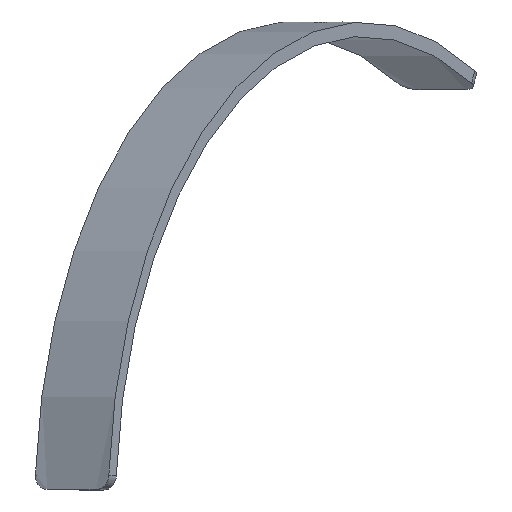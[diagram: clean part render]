
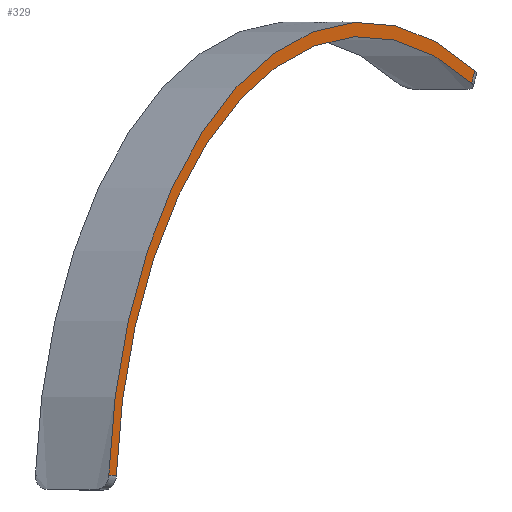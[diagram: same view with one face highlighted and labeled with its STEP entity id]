
A CAD part, left-side view. The second image highlights one B-rep face of the part: STEP entity #329.
In plain terms, the highlighted planar face has unit normal (-0.522, -0.853, 0).
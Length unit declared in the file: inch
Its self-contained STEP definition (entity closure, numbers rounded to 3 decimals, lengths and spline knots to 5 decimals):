
#24 = DIRECTION ( 'NONE',  ( -0.522, -0.853, 0. ) ) ;
#38 = CARTESIAN_POINT ( 'NONE',  ( 100.43392, -65.06447, 0. ) ) ;
#50 = CARTESIAN_POINT ( 'NONE',  ( 113.05484, -72.79858, 30.72535 ) ) ;
#57 = ORIENTED_EDGE ( 'NONE', *, *, #557, .T. ) ;
#110 = EDGE_CURVE ( 'NONE', #579, #815, #810, .T. ) ;
#122 = ORIENTED_EDGE ( 'NONE', *, *, #643, .T. ) ;
#128 = VERTEX_POINT ( 'NONE', #536 ) ;
#148 = FACE_OUTER_BOUND ( 'NONE', #257, .T. ) ;
#207 = AXIS2_PLACEMENT_3D ( 'NONE', #483, #433, #544 ) ;
#257 = EDGE_LOOP ( 'NONE', ( #122, #57, #440, #765 ) ) ;
#259 = CARTESIAN_POINT ( 'NONE',  ( 100.47255, -65.08814, 0.99897 ) ) ;
#286 = VECTOR ( 'NONE', #427, 39.37008 ) ;
#294 = DIRECTION ( 'NONE',  ( 0.853, -0.522, 0. ) ) ;
#329 = ADVANCED_FACE ( 'NONE', ( #148 ), #789, .F. ) ;
#343 = CARTESIAN_POINT ( 'NONE',  ( 72.28775, -47.81648, 2.49829 ) ) ;
#365 = CIRCLE ( 'NONE', #540, 34.105 ) ;
#406 = EDGE_CURVE ( 'NONE', #579, #452, #759, .T. ) ;
#427 = DIRECTION ( 'NONE',  ( 0.392, -0.24, 0.888 ) ) ;
#433 = DIRECTION ( 'NONE',  ( -0.522, -0.853, 0. ) ) ;
#440 = ORIENTED_EDGE ( 'NONE', *, *, #406, .F. ) ;
#452 = VERTEX_POINT ( 'NONE', #343 ) ;
#458 = DIRECTION ( 'NONE',  ( 0.852, -0.522, -0.045 ) ) ;
#462 = DIRECTION ( 'NONE',  ( 0.522, 0.853, 0. ) ) ;
#469 = CARTESIAN_POINT ( 'NONE',  ( 100.43392, -65.06447, 0. ) ) ;
#483 = CARTESIAN_POINT ( 'NONE',  ( 100.43392, -65.06447, 0. ) ) ;
#498 = LINE ( 'NONE', #259, #745 ) ;
#536 = CARTESIAN_POINT ( 'NONE',  ( 71.43561, -47.29428, 2.54362 ) ) ;
#540 = AXIS2_PLACEMENT_3D ( 'NONE', #38, #24, #294 ) ;
#544 = DIRECTION ( 'NONE',  ( 0.853, -0.522, 0. ) ) ;
#557 = EDGE_CURVE ( 'NONE', #128, #452, #498, .T. ) ;
#579 = VERTEX_POINT ( 'NONE', #758 ) ;
#631 = AXIS2_PLACEMENT_3D ( 'NONE', #469, #462, #729 ) ;
#643 = EDGE_CURVE ( 'NONE', #815, #128, #365, .T. ) ;
#677 = CARTESIAN_POINT ( 'NONE',  ( 99.67695, -64.6006, 0.46025 ) ) ;
#729 = DIRECTION ( 'NONE',  ( -0.853, 0.522, 0. ) ) ;
#745 = VECTOR ( 'NONE', #458, 39.37008 ) ;
#758 = CARTESIAN_POINT ( 'NONE',  ( 112.66224, -72.55799, 29.83716 ) ) ;
#759 = CIRCLE ( 'NONE', #207, 33.105 ) ;
#765 = ORIENTED_EDGE ( 'NONE', *, *, #110, .T. ) ;
#789 = PLANE ( 'NONE',  #631 ) ;
#810 = LINE ( 'NONE', #677, #286 ) ;
#815 = VERTEX_POINT ( 'NONE', #50 ) ;
